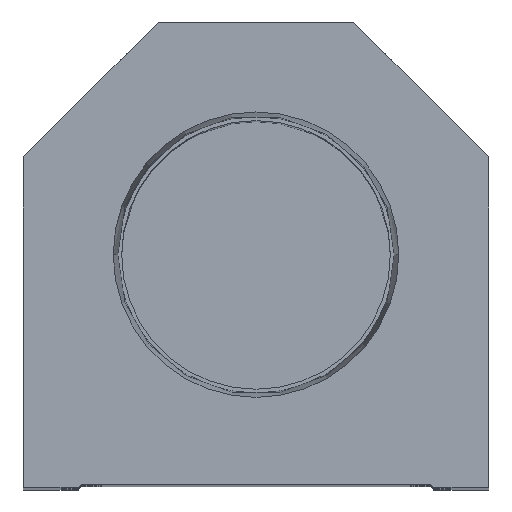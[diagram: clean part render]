
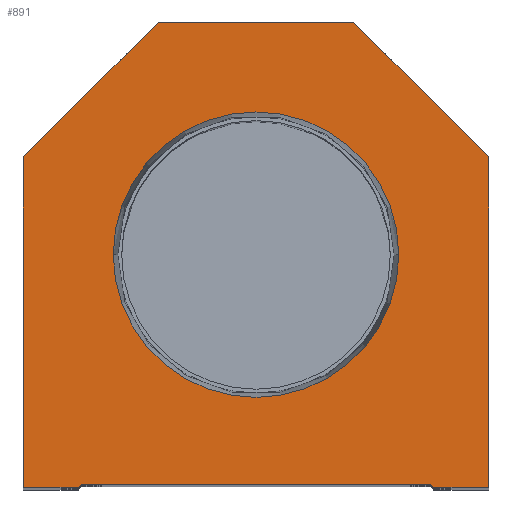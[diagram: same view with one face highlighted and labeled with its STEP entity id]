
A CAD part, top view. The second image highlights one B-rep face of the part: STEP entity #891.
In plain terms, the highlighted planar face has unit normal (0, 0, 1).
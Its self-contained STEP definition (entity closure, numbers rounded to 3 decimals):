
#9 = ORIENTED_EDGE ( 'NONE', *, *, #88, .T. ) ;
#88 = EDGE_CURVE ( 'NONE', #110, #17630, #17716, .T. ) ;
#110 = VERTEX_POINT ( 'NONE', #19224 ) ;
#519 = VERTEX_POINT ( 'NONE', #5007 ) ;
#757 = AXIS2_PLACEMENT_3D ( 'NONE', #3554, #16095, #18826 ) ;
#821 = EDGE_CURVE ( 'NONE', #19595, #2036, #9580, .T. ) ;
#891 = ADVANCED_FACE ( 'NONE', ( #5907, #12036 ), #4471, .T. ) ;
#951 = CARTESIAN_POINT ( 'NONE',  ( 23.374, 38.1, 0. ) ) ;
#1232 = LINE ( 'NONE', #4403, #17470 ) ;
#1258 = DIRECTION ( 'NONE',  ( -0.707, -0.707, 0. ) ) ;
#1600 = DIRECTION ( 'NONE',  ( 1., 0., 0. ) ) ;
#1813 = CARTESIAN_POINT ( 'NONE',  ( 38.1, 0., 0. ) ) ;
#1922 = ORIENTED_EDGE ( 'NONE', *, *, #11261, .T. ) ;
#2008 = CARTESIAN_POINT ( 'NONE',  ( 16., 76.2, 0. ) ) ;
#2036 = VERTEX_POINT ( 'NONE', #10612 ) ;
#2120 = CARTESIAN_POINT ( 'NONE',  ( -28.6, 0., 0. ) ) ;
#2634 = EDGE_CURVE ( 'NONE', #15187, #519, #1232, .T. ) ;
#2644 = CARTESIAN_POINT ( 'NONE',  ( -28.6, 0.5, 0. ) ) ;
#2835 = VECTOR ( 'NONE', #16073, 1000. ) ;
#2982 = EDGE_CURVE ( 'NONE', #15126, #17149, #17390, .T. ) ;
#3138 = EDGE_CURVE ( 'NONE', #17630, #15126, #17072, .T. ) ;
#3410 = ORIENTED_EDGE ( 'NONE', *, *, #2634, .T. ) ;
#3428 = LINE ( 'NONE', #8026, #6230 ) ;
#3554 = CARTESIAN_POINT ( 'NONE',  ( 0., 38.1, 0. ) ) ;
#3606 = EDGE_LOOP ( 'NONE', ( #1922, #3735, #13521, #5064, #3943, #3410, #20171, #9, #7143, #8651 ) ) ;
#3735 = ORIENTED_EDGE ( 'NONE', *, *, #17523, .T. ) ;
#3772 = DIRECTION ( 'NONE',  ( 1., 0., 0. ) ) ;
#3943 = ORIENTED_EDGE ( 'NONE', *, *, #14596, .T. ) ;
#4088 = DIRECTION ( 'NONE',  ( 0., 0., 1. ) ) ;
#4403 = CARTESIAN_POINT ( 'NONE',  ( 38.1, 0., 0. ) ) ;
#4471 = PLANE ( 'NONE',  #9723 ) ;
#4483 = LINE ( 'NONE', #2644, #5676 ) ;
#4954 = CARTESIAN_POINT ( 'NONE',  ( -38.1, 0., 0. ) ) ;
#5007 = CARTESIAN_POINT ( 'NONE',  ( 38.1, 54.1, 0. ) ) ;
#5064 = ORIENTED_EDGE ( 'NONE', *, *, #16842, .T. ) ;
#5348 = EDGE_LOOP ( 'NONE', ( #9304, #5546 ) ) ;
#5546 = ORIENTED_EDGE ( 'NONE', *, *, #14123, .F. ) ;
#5676 = VECTOR ( 'NONE', #8900, 1000. ) ;
#5757 = VECTOR ( 'NONE', #1258, 1000. ) ;
#5907 = FACE_BOUND ( 'NONE', #5348, .T. ) ;
#6230 = VECTOR ( 'NONE', #6607, 1000. ) ;
#6490 = DIRECTION ( 'NONE',  ( 0., -1., 0. ) ) ;
#6607 = DIRECTION ( 'NONE',  ( -0.707, 0.707, 0. ) ) ;
#6665 = CARTESIAN_POINT ( 'NONE',  ( -28.6, 0.5, 0. ) ) ;
#6800 = VERTEX_POINT ( 'NONE', #8889 ) ;
#6850 = DIRECTION ( 'NONE',  ( 0.707, -0.707, 0. ) ) ;
#7143 = ORIENTED_EDGE ( 'NONE', *, *, #3138, .T. ) ;
#7270 = DIRECTION ( 'NONE',  ( 0.707, 0.707, 0. ) ) ;
#7641 = VECTOR ( 'NONE', #13034, 1000. ) ;
#7697 = DIRECTION ( 'NONE',  ( 1., 0., 0. ) ) ;
#7732 = DIRECTION ( 'NONE',  ( 0., 0., 1. ) ) ;
#7917 = AXIS2_PLACEMENT_3D ( 'NONE', #9931, #4088, #3772 ) ;
#8026 = CARTESIAN_POINT ( 'NONE',  ( 38.1, 54.1, 0. ) ) ;
#8141 = CARTESIAN_POINT ( 'NONE',  ( -38.1, 54.1, 0. ) ) ;
#8651 = ORIENTED_EDGE ( 'NONE', *, *, #2982, .T. ) ;
#8709 = LINE ( 'NONE', #11879, #12051 ) ;
#8889 = CARTESIAN_POINT ( 'NONE',  ( -29.1, 0., 0. ) ) ;
#8900 = DIRECTION ( 'NONE',  ( 1., 0., 0. ) ) ;
#8909 = VERTEX_POINT ( 'NONE', #17292 ) ;
#8931 = EDGE_CURVE ( 'NONE', #519, #110, #3428, .T. ) ;
#8945 = CARTESIAN_POINT ( 'NONE',  ( -38.1, 54.1, 0. ) ) ;
#9304 = ORIENTED_EDGE ( 'NONE', *, *, #821, .F. ) ;
#9392 = VERTEX_POINT ( 'NONE', #17100 ) ;
#9580 = CIRCLE ( 'NONE', #757, 23.374 ) ;
#9723 = AXIS2_PLACEMENT_3D ( 'NONE', #18514, #7732, #1600 ) ;
#9931 = CARTESIAN_POINT ( 'NONE',  ( 0., 38.1, 0. ) ) ;
#10210 = LINE ( 'NONE', #2120, #7641 ) ;
#10612 = CARTESIAN_POINT ( 'NONE',  ( -23.374, 38.1, 0. ) ) ;
#10998 = VECTOR ( 'NONE', #6490, 1000. ) ;
#11206 = CARTESIAN_POINT ( 'NONE',  ( -38.1, 0., 0. ) ) ;
#11261 = EDGE_CURVE ( 'NONE', #17149, #6800, #10210, .T. ) ;
#11879 = CARTESIAN_POINT ( 'NONE',  ( -14.55, 14.55, 0. ) ) ;
#12036 = FACE_OUTER_BOUND ( 'NONE', #3606, .T. ) ;
#12051 = VECTOR ( 'NONE', #7270, 1000. ) ;
#12520 = VECTOR ( 'NONE', #7697, 1000. ) ;
#13034 = DIRECTION ( 'NONE',  ( 1., 0., 0. ) ) ;
#13391 = LINE ( 'NONE', #19469, #17188 ) ;
#13521 = ORIENTED_EDGE ( 'NONE', *, *, #14275, .T. ) ;
#14123 = EDGE_CURVE ( 'NONE', #2036, #19595, #16715, .T. ) ;
#14275 = EDGE_CURVE ( 'NONE', #14612, #8909, #4483, .T. ) ;
#14596 = EDGE_CURVE ( 'NONE', #9392, #15187, #15515, .T. ) ;
#14612 = VERTEX_POINT ( 'NONE', #6665 ) ;
#15126 = VERTEX_POINT ( 'NONE', #8141 ) ;
#15187 = VERTEX_POINT ( 'NONE', #1813 ) ;
#15306 = DIRECTION ( 'NONE',  ( 0., 1., 0. ) ) ;
#15515 = LINE ( 'NONE', #16870, #12520 ) ;
#16073 = DIRECTION ( 'NONE',  ( -1., 0., 0. ) ) ;
#16095 = DIRECTION ( 'NONE',  ( 0., 0., 1. ) ) ;
#16715 = CIRCLE ( 'NONE', #7917, 23.374 ) ;
#16842 = EDGE_CURVE ( 'NONE', #8909, #9392, #13391, .T. ) ;
#16870 = CARTESIAN_POINT ( 'NONE',  ( 28.6, 0., 0. ) ) ;
#17072 = LINE ( 'NONE', #8945, #5757 ) ;
#17100 = CARTESIAN_POINT ( 'NONE',  ( 29.1, 0., 0. ) ) ;
#17137 = CARTESIAN_POINT ( 'NONE',  ( -16., 76.2, 0. ) ) ;
#17149 = VERTEX_POINT ( 'NONE', #4954 ) ;
#17188 = VECTOR ( 'NONE', #6850, 1000. ) ;
#17292 = CARTESIAN_POINT ( 'NONE',  ( 28.6, 0.5, 0. ) ) ;
#17390 = LINE ( 'NONE', #11206, #10998 ) ;
#17470 = VECTOR ( 'NONE', #15306, 1000. ) ;
#17523 = EDGE_CURVE ( 'NONE', #6800, #14612, #8709, .T. ) ;
#17630 = VERTEX_POINT ( 'NONE', #17137 ) ;
#17716 = LINE ( 'NONE', #2008, #2835 ) ;
#18514 = CARTESIAN_POINT ( 'NONE',  ( 0., 0., 0. ) ) ;
#18826 = DIRECTION ( 'NONE',  ( 1., 0., 0. ) ) ;
#19224 = CARTESIAN_POINT ( 'NONE',  ( 16., 76.2, 0. ) ) ;
#19469 = CARTESIAN_POINT ( 'NONE',  ( 14.55, 14.55, 0. ) ) ;
#19595 = VERTEX_POINT ( 'NONE', #951 ) ;
#20171 = ORIENTED_EDGE ( 'NONE', *, *, #8931, .T. ) ;
